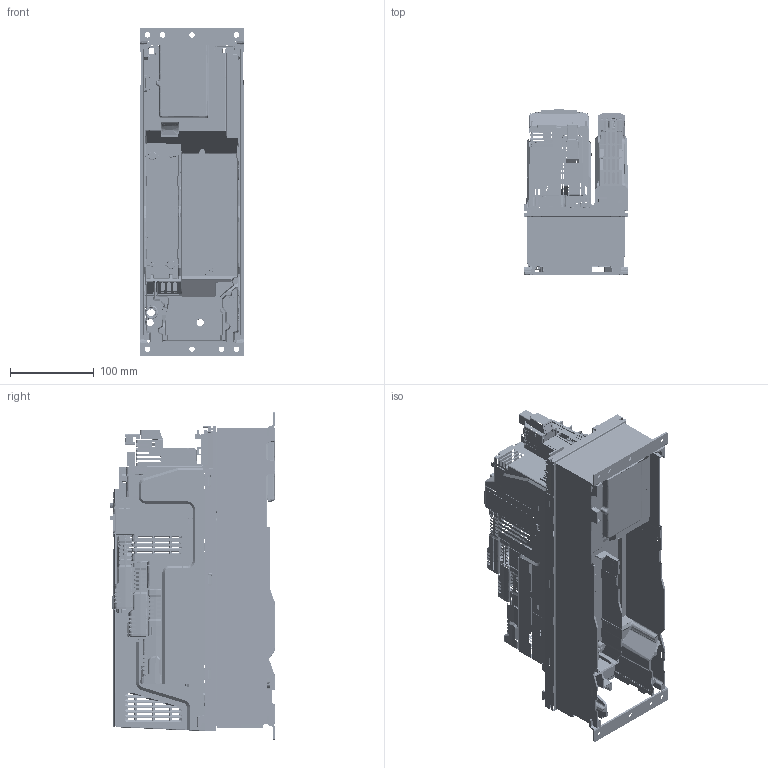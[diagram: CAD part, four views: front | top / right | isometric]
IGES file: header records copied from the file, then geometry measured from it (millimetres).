
Start section:  PTC IGES file: internal_gt8-f05.igs
Global section: file name: internal_gt8-f05.igs; native system: Pro/ENGINEER by Parametric Technology Corporation; preprocessor: 2011490; author: lewisi02; organization: Unknown; date: 20130902.112125; units: millimetre
Bounding box: 123.77 x 197.22 x 391 mm (x, y, z)
Surface area: 588622.2 mm2 (no closed solid volume)
Topology: 0 solids, 0 shells, 2557 faces, 25395 edges, 25392 vertices
Faces by surface type: bspline 2557
